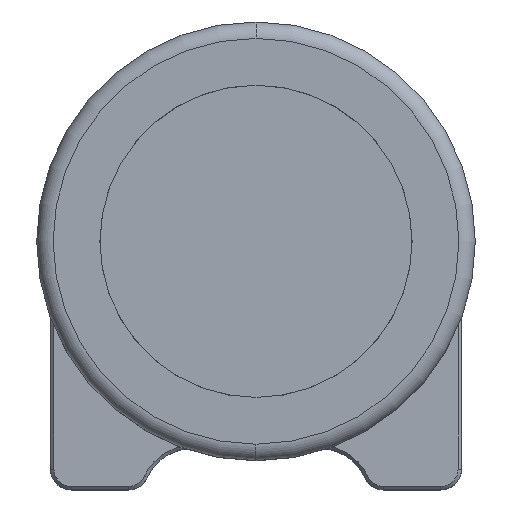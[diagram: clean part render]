
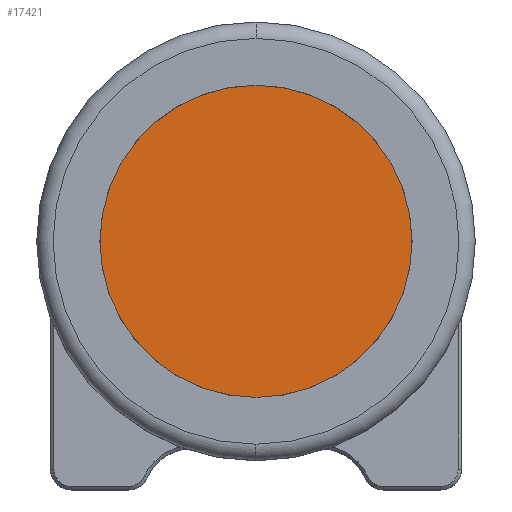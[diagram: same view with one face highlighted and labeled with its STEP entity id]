
A CAD part, top view. The second image highlights one B-rep face of the part: STEP entity #17421.
In plain terms, the highlighted planar face has unit normal (0, 0, 1).
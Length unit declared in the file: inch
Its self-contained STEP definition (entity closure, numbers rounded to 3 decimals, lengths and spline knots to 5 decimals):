
#1286 = DIRECTION ( 'NONE',  ( 1., 0., 0. ) ) ;
#3224 = CARTESIAN_POINT ( 'NONE',  ( -1.1675, 0., 0.1875 ) ) ;
#3490 = CARTESIAN_POINT ( 'NONE',  ( 0., 0., 0.1875 ) ) ;
#4180 = CIRCLE ( 'NONE', #7695, 1.1675 ) ;
#4353 = DIRECTION ( 'NONE',  ( 0., 0., 1. ) ) ;
#6096 = DIRECTION ( 'NONE',  ( 1., 0., 0. ) ) ;
#7695 = AXIS2_PLACEMENT_3D ( 'NONE', #3490, #22865, #1286 ) ;
#11030 = EDGE_LOOP ( 'NONE', ( #23921, #29613 ) ) ;
#11207 = EDGE_CURVE ( 'NONE', #27888, #13208, #30214, .T. ) ;
#11592 = DIRECTION ( 'NONE',  ( 1., 0., 0. ) ) ;
#13208 = VERTEX_POINT ( 'NONE', #3224 ) ;
#13583 = EDGE_CURVE ( 'NONE', #13208, #27888, #4180, .T. ) ;
#15274 = CARTESIAN_POINT ( 'NONE',  ( 1.1675, 0., 0.1875 ) ) ;
#16349 = CARTESIAN_POINT ( 'NONE',  ( 0., 0., 0.1875 ) ) ;
#17421 = ADVANCED_FACE ( 'NONE', ( #21045 ), #18692, .T. ) ;
#18427 = CARTESIAN_POINT ( 'NONE',  ( 0., 0., 0.1875 ) ) ;
#18692 = PLANE ( 'NONE',  #24244 ) ;
#20632 = AXIS2_PLACEMENT_3D ( 'NONE', #18427, #25503, #6096 ) ;
#21045 = FACE_OUTER_BOUND ( 'NONE', #11030, .T. ) ;
#22865 = DIRECTION ( 'NONE',  ( 0., 0., 1. ) ) ;
#23921 = ORIENTED_EDGE ( 'NONE', *, *, #13583, .T. ) ;
#24244 = AXIS2_PLACEMENT_3D ( 'NONE', #16349, #4353, #11592 ) ;
#25503 = DIRECTION ( 'NONE',  ( 0., 0., 1. ) ) ;
#27888 = VERTEX_POINT ( 'NONE', #15274 ) ;
#29613 = ORIENTED_EDGE ( 'NONE', *, *, #11207, .T. ) ;
#30214 = CIRCLE ( 'NONE', #20632, 1.1675 ) ;
